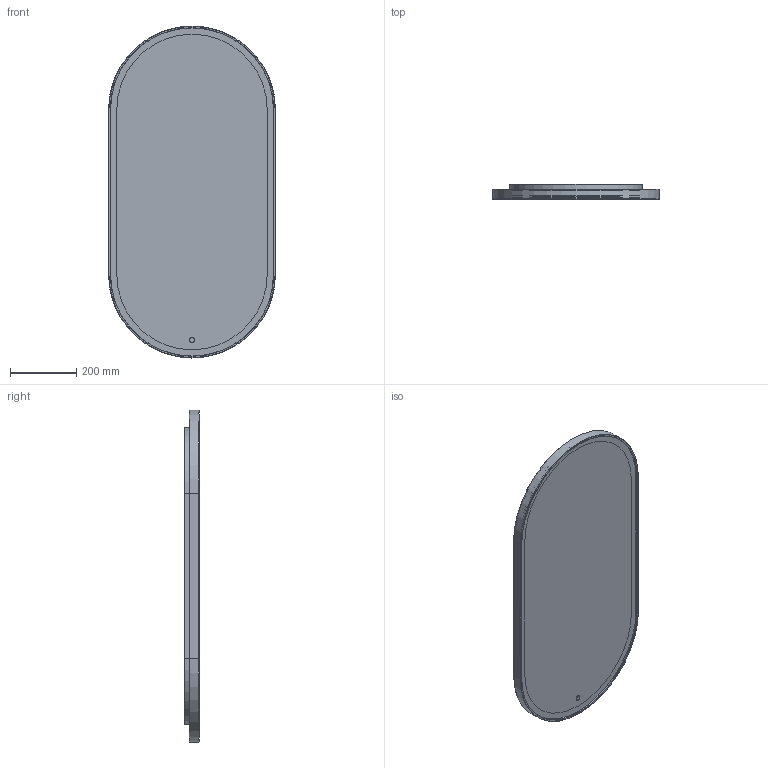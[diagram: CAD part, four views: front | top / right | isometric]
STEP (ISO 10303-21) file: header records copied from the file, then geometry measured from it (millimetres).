
FILE_DESCRIPTION(/* description */ ('Unknown'),/* implementation_level */ '2;1');
FILE_NAME(/* name */ 'Bold-DUAL',/* time_stamp */ '2026-01-08T14:43:22+01:00',/* author */ ('Mariusz Kirko'),/* organization */ ('Kraft'),/* preprocessor_version */ 'ST-DEVELOPER v19.4',/* originating_system */ 'Solid Edge',/* authorisation */ 'Unknown');
FILE_SCHEMA (('AUTOMOTIVE_DESIGN {1 0 10303 214 3 1 1}'));
Length unit declared in the file: millimetre
Products named in the file (7): Z這瞠nie plus zawieszka plus zakrywka1; Ramka; Piaskowanie; 300x30; Lustro; Ramka HIPS; Zakrywka
Assembly tree (6 placements, depth 2):
  Z這瞠nie plus zawieszka plus zakrywka1
    Ramka
    Piaskowanie
    300x30
    Lustro
    Ramka HIPS
    Zakrywka
Bounding box: 506 x 44 x 1006 mm (x, y, z)
Volume: 2476318.2 mm3; surface area: 1575289.9 mm2
Topology: 7 solids, 7 shells, 129 faces, 326 edges, 212 vertices
Faces by surface type: plane 67, cylinder 54, torus 8
Full cylindrical faces by diameter (mm): 14 x1, 16 x1
Entity records: 4130 total; most frequent: DIRECTION 712, CARTESIAN_POINT 672, ORIENTED_EDGE 648, EDGE_CURVE 324, AXIS2_PLACEMENT_3D 252, VERTEX_POINT 212, LINE 208, VECTOR 208
